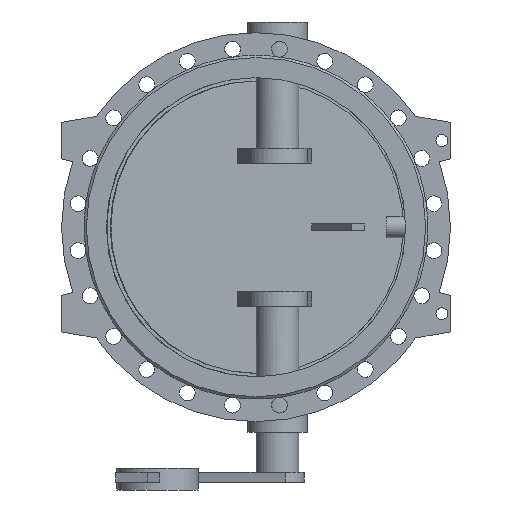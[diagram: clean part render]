
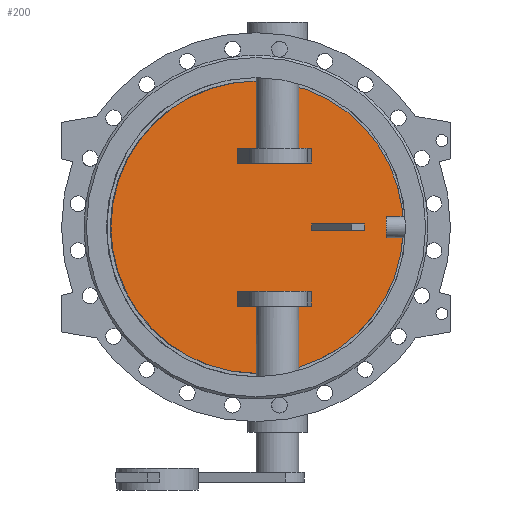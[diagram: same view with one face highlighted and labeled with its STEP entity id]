
A CAD part, front view. The second image highlights one B-rep face of the part: STEP entity #200.
In plain terms, the highlighted planar face has unit normal (0.131, -0.991, 0).
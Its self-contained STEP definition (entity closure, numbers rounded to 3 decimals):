
#200=ADVANCED_FACE('',(#1511,#1513,#1515,#1517),#1519,.T.);
#1511=FACE_BOUND('',#1512,.T.);
#1512=EDGE_LOOP('',(#2916));
#1513=FACE_BOUND('',#1514,.T.);
#1514=EDGE_LOOP('',(#2917,#2918,#2919,#2920));
#1515=FACE_BOUND('',#1516,.T.);
#1516=EDGE_LOOP('',(#2921,#2922,#2923,#2924));
#1517=FACE_BOUND('',#1518,.T.);
#1518=EDGE_LOOP('',(#2925,#2926,#2927,#2928));
#1519=PLANE('',#1520);
#1520=AXIS2_PLACEMENT_3D('',#1521,#1522,#1523);
#1521=CARTESIAN_POINT('',(-1.272,9.66,0.));
#1522=DIRECTION('',(0.131,-0.991,0.));
#1523=DIRECTION('',(0.,0.,-1.));
#2916=ORIENTED_EDGE('',*,*,#3692,.T.);
#2917=ORIENTED_EDGE('',*,*,#3792,.F.);
#2918=ORIENTED_EDGE('',*,*,#3793,.F.);
#2919=ORIENTED_EDGE('',*,*,#3794,.F.);
#2920=ORIENTED_EDGE('',*,*,#3795,.F.);
#2921=ORIENTED_EDGE('',*,*,#3796,.F.);
#2922=ORIENTED_EDGE('',*,*,#3797,.F.);
#2923=ORIENTED_EDGE('',*,*,#3798,.F.);
#2924=ORIENTED_EDGE('',*,*,#3799,.F.);
#2925=ORIENTED_EDGE('',*,*,#3800,.F.);
#2926=ORIENTED_EDGE('',*,*,#3801,.F.);
#2927=ORIENTED_EDGE('',*,*,#3802,.F.);
#2928=ORIENTED_EDGE('',*,*,#3803,.F.);
#3692=EDGE_CURVE('',#4163,#4163,#4164,.T.);
#3792=EDGE_CURVE('',#4363,#4364,#4365,.T.);
#3793=EDGE_CURVE('',#4366,#4363,#4367,.F.);
#3794=EDGE_CURVE('',#4368,#4366,#4369,.T.);
#3795=EDGE_CURVE('',#4364,#4368,#4370,.T.);
#3796=EDGE_CURVE('',#4371,#4372,#4373,.F.);
#3797=EDGE_CURVE('',#4374,#4371,#4375,.T.);
#3798=EDGE_CURVE('',#4376,#4374,#4377,.T.);
#3799=EDGE_CURVE('',#4372,#4376,#4378,.T.);
#3800=EDGE_CURVE('',#4379,#4380,#4381,.T.);
#3801=EDGE_CURVE('',#4382,#4379,#4383,.F.);
#3802=EDGE_CURVE('',#4384,#4382,#4385,.F.);
#3803=EDGE_CURVE('',#4380,#4384,#4386,.F.);
#4163=VERTEX_POINT('',#5547);
#4164=B_SPLINE_CURVE_WITH_KNOTS('',3,
(#5548,#5549,#5550,#5551,#5552,#5553,#5554,#5555,#5556,#5557,#5558,#5559,#5560,#5561,
#5562,#5563,#5564,#5565,#5566,#5567,#5568,#5569,#5570,#5571,#5572,#5573,#5574,#5575,
#5576,#5577,#5578,#5579,#5580,#5581,#5582,#5583,#5584,#5585,#5586,#5587,#5588,#5589,
#5590,#5591,#5592,#5593,#5594,#5595,#5596,#5597,#5598),
.UNSPECIFIED.,.T.,.F.,
(4,1,1,1,1,1,1,1,1,1,1,1,1,1,1,1,1,1,1,1,1,1,1,1,1,1,1,1,1,1,1,1,1,1,1,1,1,1,1,1,
1,1,1,1,1,1,1,1,4),
(0.,0.021,0.042,0.063,0.084,0.105,
0.126,0.147,0.168,0.189,0.211,
0.232,0.253,0.274,0.295,0.316,
0.337,0.358,0.379,0.4,0.421,
0.442,0.463,0.484,0.505,0.527,
0.548,0.569,0.59,0.611,0.632,
0.653,0.674,0.695,0.716,0.737,
0.758,0.779,0.8,0.821,0.842,
0.864,0.885,0.906,0.927,0.948,
0.969,0.986,1.),
.UNSPECIFIED.);
#4363=VERTEX_POINT('',#7761);
#4364=VERTEX_POINT('',#7762);
#4365=LINE('',#7763,#7764);
#4366=VERTEX_POINT('',#7766);
#4367=LINE('',#7767,#7768);
#4368=VERTEX_POINT('',#7770);
#4369=LINE('',#7771,#7772);
#4370=LINE('',#7774,#7775);
#4371=VERTEX_POINT('',#7777);
#4372=VERTEX_POINT('',#7778);
#4373=LINE('',#7779,#7780);
#4374=VERTEX_POINT('',#7782);
#4375=LINE('',#7783,#7784);
#4376=VERTEX_POINT('',#7786);
#4377=LINE('',#7787,#7788);
#4378=LINE('',#7790,#7791);
#4379=VERTEX_POINT('',#7793);
#4380=VERTEX_POINT('',#7794);
#4381=LINE('',#7795,#7796);
#4382=VERTEX_POINT('',#7798);
#4383=LINE('',#7799,#7800);
#4384=VERTEX_POINT('',#7802);
#4385=LINE('',#7803,#7804);
#4386=LINE('',#7806,#7807);
#5547=CARTESIAN_POINT('',(2.611,10.171,342.));
#5548=CARTESIAN_POINT('',(2.611,10.171,342.));
#5549=CARTESIAN_POINT('',(-12.418,8.193,342.));
#5550=CARTESIAN_POINT('',(-42.51,4.231,340.014));
#5551=CARTESIAN_POINT('',(-86.92,-1.616,331.113));
#5552=CARTESIAN_POINT('',(-129.828,-7.265,316.412));
#5553=CARTESIAN_POINT('',(-170.446,-12.612,296.163));
#5554=CARTESIAN_POINT('',(-208.026,-17.56,270.738));
#5555=CARTESIAN_POINT('',(-241.92,-22.022,240.578));
#5556=CARTESIAN_POINT('',(-271.535,-25.921,206.212));
#5557=CARTESIAN_POINT('',(-296.353,-29.188,168.242));
#5558=CARTESIAN_POINT('',(-315.942,-31.767,127.332));
#5559=CARTESIAN_POINT('',(-329.961,-33.613,84.197));
#5560=CARTESIAN_POINT('',(-338.164,-34.693,39.592));
#5561=CARTESIAN_POINT('',(-340.41,-34.988,-5.705));
#5562=CARTESIAN_POINT('',(-336.659,-34.495,-50.903));
#5563=CARTESIAN_POINT('',(-326.975,-33.22,-95.211));
#5564=CARTESIAN_POINT('',(-311.529,-31.186,-137.856));
#5565=CARTESIAN_POINT('',(-290.589,-28.429,-178.093));
#5566=CARTESIAN_POINT('',(-264.52,-24.997,-215.217));
#5567=CARTESIAN_POINT('',(-233.777,-20.95,-248.58));
#5568=CARTESIAN_POINT('',(-198.896,-16.358,-277.598));
#5569=CARTESIAN_POINT('',(-160.486,-11.301,-301.76));
#5570=CARTESIAN_POINT('',(-119.22,-5.868,-320.644));
#5571=CARTESIAN_POINT('',(-75.818,-0.154,-333.917));
#5572=CARTESIAN_POINT('',(-31.043,5.741,-341.346));
#5573=CARTESIAN_POINT('',(14.323,11.713,-342.801));
#5574=CARTESIAN_POINT('',(59.482,17.658,-338.255));
#5575=CARTESIAN_POINT('',(103.645,23.473,-327.789));
#5576=CARTESIAN_POINT('',(146.037,29.054,-311.587));
#5577=CARTESIAN_POINT('',(185.916,34.304,-289.934));
#5578=CARTESIAN_POINT('',(222.585,39.131,-263.21));
#5579=CARTESIAN_POINT('',(255.403,43.452,-231.884));
#5580=CARTESIAN_POINT('',(283.798,47.19,-196.505));
#5581=CARTESIAN_POINT('',(307.273,50.281,-157.691));
#5582=CARTESIAN_POINT('',(325.42,52.67,-116.122));
#5583=CARTESIAN_POINT('',(337.922,54.316,-72.524));
#5584=CARTESIAN_POINT('',(344.561,55.19,-27.66));
#5585=CARTESIAN_POINT('',(345.222,55.277,17.688));
#5586=CARTESIAN_POINT('',(339.893,54.575,62.727));
#5587=CARTESIAN_POINT('',(328.667,53.097,106.67));
#5588=CARTESIAN_POINT('',(311.739,50.869,148.75));
#5589=CARTESIAN_POINT('',(289.405,47.928,188.231));
#5590=CARTESIAN_POINT('',(262.053,44.327,224.422));
#5591=CARTESIAN_POINT('',(230.16,40.129,256.692));
#5592=CARTESIAN_POINT('',(194.294,35.407,284.466));
#5593=CARTESIAN_POINT('',(155.122,30.25,307.238));
#5594=CARTESIAN_POINT('',(113.213,24.732,324.688));
#5595=CARTESIAN_POINT('',(71.88,19.291,335.775));
#5596=CARTESIAN_POINT('',(34.719,14.398,341.04));
#5597=CARTESIAN_POINT('',(12.424,11.463,342.));
#5598=CARTESIAN_POINT('',(2.611,10.171,342.));
#7761=CARTESIAN_POINT('',(234.102,40.647,-7.5));
#7762=CARTESIAN_POINT('',(234.102,40.647,7.5));
#7763=CARTESIAN_POINT('',(234.102,40.647,-7.5));
#7764=VECTOR('',#7765,1.);
#7765=DIRECTION('',(0.,0.,1.));
#7766=CARTESIAN_POINT('',(130.,26.942,-7.5));
#7767=CARTESIAN_POINT('',(234.102,40.647,-7.5));
#7768=VECTOR('',#7769,1.);
#7769=DIRECTION('',(-0.991,-0.131,0.));
#7770=CARTESIAN_POINT('',(130.,26.942,7.5));
#7771=CARTESIAN_POINT('',(130.,26.942,7.5));
#7772=VECTOR('',#7773,1.);
#7773=DIRECTION('',(0.,0.,-1.));
#7774=CARTESIAN_POINT('',(234.102,40.647,7.5));
#7775=VECTOR('',#7776,1.);
#7776=DIRECTION('',(-0.991,-0.131,0.));
#7777=CARTESIAN_POINT('',(-44.007,4.034,-185.));
#7778=CARTESIAN_POINT('',(129.407,26.864,-185.));
#7779=CARTESIAN_POINT('',(129.407,26.864,-185.));
#7780=VECTOR('',#7781,1.);
#7781=DIRECTION('',(-0.991,-0.131,0.));
#7782=CARTESIAN_POINT('',(-44.007,4.034,-150.));
#7783=CARTESIAN_POINT('',(-44.007,4.034,-150.));
#7784=VECTOR('',#7785,1.);
#7785=DIRECTION('',(0.,0.,-1.));
#7786=CARTESIAN_POINT('',(129.407,26.864,-150.));
#7787=CARTESIAN_POINT('',(129.407,26.864,-150.));
#7788=VECTOR('',#7789,1.);
#7789=DIRECTION('',(-0.991,-0.131,0.));
#7790=CARTESIAN_POINT('',(129.407,26.864,-185.));
#7791=VECTOR('',#7792,1.);
#7792=DIRECTION('',(0.,0.,1.));
#7793=CARTESIAN_POINT('',(129.407,26.864,185.));
#7794=CARTESIAN_POINT('',(-44.007,4.034,185.));
#7795=CARTESIAN_POINT('',(129.407,26.864,185.));
#7796=VECTOR('',#7797,1.);
#7797=DIRECTION('',(-0.991,-0.131,0.));
#7798=CARTESIAN_POINT('',(129.407,26.864,150.));
#7799=CARTESIAN_POINT('',(129.407,26.864,185.));
#7800=VECTOR('',#7801,1.);
#7801=DIRECTION('',(0.,0.,-1.));
#7802=CARTESIAN_POINT('',(-44.007,4.034,150.));
#7803=CARTESIAN_POINT('',(129.407,26.864,150.));
#7804=VECTOR('',#7805,1.);
#7805=DIRECTION('',(-0.991,-0.131,0.));
#7806=CARTESIAN_POINT('',(-44.007,4.034,150.));
#7807=VECTOR('',#7808,1.);
#7808=DIRECTION('',(0.,0.,1.));
